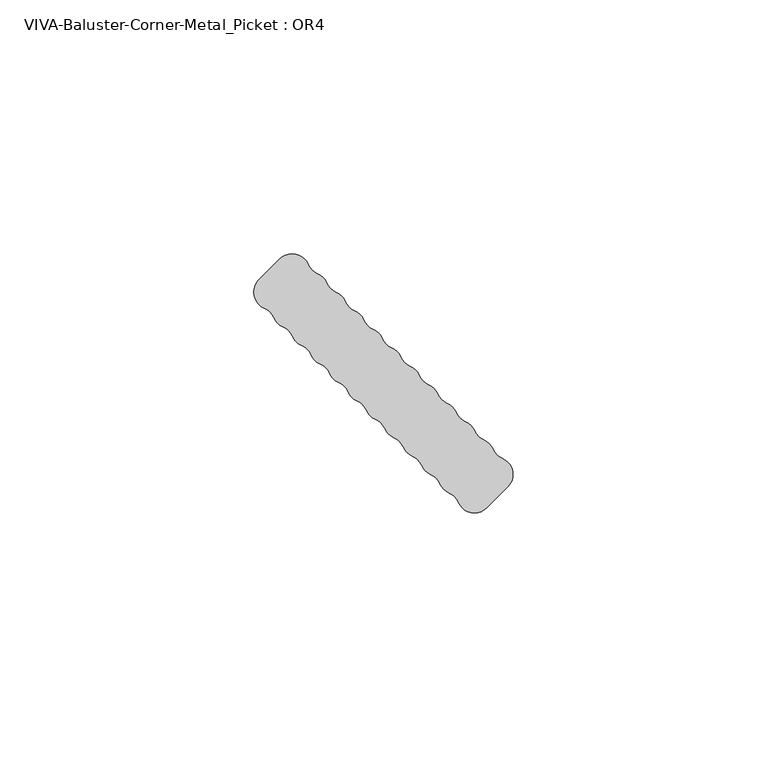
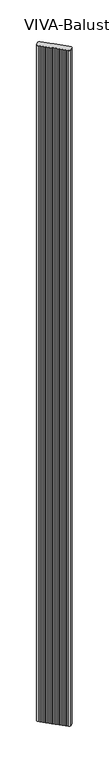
"""IFC4 building model written with IfcOpenShell, lengths in millimetres: railing geometry, VIVA-Baluster-Corner-Metal_Picket : OR4."""

from ifc_helpers import new_model, si_unit, frame, origin, place, context, project, spatial, polyline, circle_curve, source, transform, mapped, element, save
from ifc_brep_helpers import plane_surface, cylinder_surface, revolved_surface, advanced_brep


def viva_baluster_corner_metal_picket_or4_8cd8b7c1(model_context):
    return source(origin(), model_context, "Body", "AdvancedBrep", [
        advanced_brep(
        [(45.2828367, 351.4322697, 1219.2), (49.4018632, 355.5512962, 1219.2), (48.3150854, 361.1457503, 1219.2), (46.495083, 362.9657526, 1219.2), (44.6750807, 364.7857549, 1219.2), (42.8550784, 366.6057572, 1219.2), (41.0350761, 368.4257595, 1219.2), (39.2150738, 370.2457619, 1219.2), (37.3950715, 372.0657642, 1219.2), (35.5750691, 373.8857665, 1219.2), (33.7550668, 375.7057688, 1219.2), (31.9350645, 377.5257711, 1219.2), (30.1150622, 379.3457734, 1219.2), (28.2950599, 381.1657758, 1219.2), (26.4750576, 382.9857781, 1219.2), (24.6550552, 384.8057804, 1219.2), (22.8350529, 386.6257827, 1219.2), (21.0150506, 388.445785, 1219.2), (19.1950483, 390.2657873, 1219.2), (17.375046, 392.0857897, 1219.2), (15.5550437, 393.905792, 1219.2), (13.7350413, 395.7257943, 1219.2), (11.915039, 397.5457966, 1219.2), (10.0950367, 399.3657989, 1219.2), (4.5005826, 400.4525768, 1219.2), (0.3815561, 396.3335503, 1219.2), (1.468334, 390.7390962, 1219.2), (3.2883363, 388.9190939, 1219.2), (5.1083386, 387.0990916, 1219.2), (6.9283409, 385.2790892, 1219.2), (8.7483432, 383.4590869, 1219.2), (10.5683456, 381.6390846, 1219.2), (12.3883479, 379.8190823, 1219.2), (14.2083502, 377.99908, 1219.2), (16.0283525, 376.1790777, 1219.2), (17.8483548, 374.3590753, 1219.2), (19.6683571, 372.539073, 1219.2), (21.4883595, 370.7190707, 1219.2), (23.3083618, 368.8990684, 1219.2), (25.1283641, 367.0790661, 1219.2), (26.9483664, 365.2590638, 1219.2), (28.7683687, 363.4390614, 1219.2), (30.5883711, 361.6190591, 1219.2), (32.4083734, 359.7990568, 1219.2), (34.2283757, 357.9790545, 1219.2), (36.048378, 356.1590522, 1219.2), (37.8683803, 354.3390499, 1219.2), (39.6883826, 352.5190475, 1219.2), (45.2828367, 351.4322697, -245.8945017), (39.6883826, 352.5190475, -245.8945017), (37.8683803, 354.3390499, -245.8945017), (36.048378, 356.1590522, -245.8945017), (34.2283757, 357.9790545, -245.8945017), (32.4083734, 359.7990568, -245.8945017), (30.5883711, 361.6190591, -245.8945017), (28.7683687, 363.4390614, -245.8945017), (26.9483664, 365.2590638, -245.8945017), (25.1283641, 367.0790661, -245.8945017), (23.3083618, 368.8990684, -245.8945017), (21.4883595, 370.7190707, -245.8945017), (19.6683571, 372.539073, -245.8945017), (17.8483548, 374.3590753, -245.8945017), (16.0283525, 376.1790777, -245.8945017), (14.2083502, 377.99908, -245.8945017), (12.3883479, 379.8190823, -245.8945017), (10.5683456, 381.6390846, -245.8945017), (8.7483432, 383.4590869, -245.8945017), (6.9283409, 385.2790892, -245.8945017), (5.1083386, 387.0990916, -245.8945017), (3.2883363, 388.9190939, -245.8945017), (1.468334, 390.7390962, -245.8945017), (0.3815561, 396.3335503, -245.8945017), (4.5005826, 400.4525768, -245.8945017), (10.0950367, 399.3657989, -245.8945017), (11.915039, 397.5457966, -245.8945017), (13.7350413, 395.7257943, -245.8945017), (15.5550437, 393.905792, -245.8945017), (17.375046, 392.0857897, -245.8945017), (19.1950483, 390.2657873, -245.8945017), (21.0150506, 388.445785, -245.8945017), (22.8350529, 386.6257827, -245.8945017), (24.6550552, 384.8057804, -245.8945017), (26.4750576, 382.9857781, -245.8945017), (28.2950599, 381.1657758, -245.8945017), (30.1150622, 379.3457734, -245.8945017), (31.9350645, 377.5257711, -245.8945017), (33.7550668, 375.7057688, -245.8945017), (35.5750691, 373.8857665, -245.8945017), (37.3950715, 372.0657642, -245.8945017), (39.2150738, 370.2457619, -245.8945017), (41.0350761, 368.4257595, -245.8945017), (42.8550784, 366.6057572, -245.8945017), (44.6750807, 364.7857549, -245.8945017), (46.495083, 362.9657526, -245.8945017), (48.3150854, 361.1457503, -245.8945017), (49.4018632, 355.5512962, -245.8945017)],
        [
            (0, 1),
            (1, 2, circle_curve(frame((46.9712484, 357.981911, 1219.2), z_axis=(0.0, 0.0, 1.0), x_axis=(1.0, 0.0, 0.0)), 3.4374084)),
            (2, 3, circle_curve(frame((49.6589223, 364.3095895, 1219.2), z_axis=(0.0, 0.0, -1.0), x_axis=(1.0, 0.0, 0.0)), 3.4374084)),
            (3, 4, circle_curve(frame((43.3312438, 361.6219156, 1219.2), z_axis=(0.0, 0.0, 1.0), x_axis=(1.0, 0.0, 0.0)), 3.4374084)),
            (4, 5, circle_curve(frame((46.0189177, 367.9495942, 1219.2), z_axis=(0.0, 0.0, -1.0), x_axis=(1.0, 0.0, 0.0)), 3.4374084)),
            (5, 6, circle_curve(frame((39.6912391, 365.2619203, 1219.2), z_axis=(0.0, 0.0, 1.0), x_axis=(1.0, 0.0, 0.0)), 3.4374084)),
            (6, 7, circle_curve(frame((42.3789131, 371.5895988, 1219.2), z_axis=(0.0, 0.0, -1.0), x_axis=(1.0, 0.0, 0.0)), 3.4374084)),
            (7, 8, circle_curve(frame((36.0512345, 368.9019249, 1219.2), z_axis=(0.0, 0.0, 1.0), x_axis=(1.0, 0.0, 0.0)), 3.4374084)),
            (8, 9, circle_curve(frame((38.7389084, 375.2296034, 1219.2), z_axis=(0.0, 0.0, -1.0), x_axis=(1.0, 0.0, 0.0)), 3.4374084)),
            (9, 10, circle_curve(frame((32.4112299, 372.5419295, 1219.2), z_axis=(0.0, 0.0, 1.0), x_axis=(1.0, 0.0, 0.0)), 3.4374084)),
            (10, 11, circle_curve(frame((35.0989038, 378.8696081, 1219.2), z_axis=(0.0, 0.0, -1.0), x_axis=(1.0, 0.0, 0.0)), 3.4374084)),
            (11, 12, circle_curve(frame((28.7712252, 376.1819342, 1219.2), z_axis=(0.0, 0.0, 1.0), x_axis=(1.0, 0.0, 0.0)), 3.4374084)),
            (12, 13, circle_curve(frame((31.4588992, 382.5096127, 1219.2), z_axis=(0.0, 0.0, -1.0), x_axis=(1.0, 0.0, 0.0)), 3.4374084)),
            (13, 14, circle_curve(frame((25.1312206, 379.8219388, 1219.2), z_axis=(0.0, 0.0, 1.0), x_axis=(1.0, 0.0, 0.0)), 3.4374084)),
            (14, 15, circle_curve(frame((27.8188945, 386.1496174, 1219.2), z_axis=(0.0, 0.0, -1.0), x_axis=(1.0, 0.0, 0.0)), 3.4374084)),
            (15, 16, circle_curve(frame((21.491216, 383.4619434, 1219.2), z_axis=(0.0, 0.0, 1.0), x_axis=(1.0, 0.0, 0.0)), 3.4374084)),
            (16, 17, circle_curve(frame((24.1788899, 389.789622, 1219.2), z_axis=(0.0, 0.0, -1.0), x_axis=(1.0, 0.0, 0.0)), 3.4374084)),
            (17, 18, circle_curve(frame((17.8512113, 387.1019481, 1219.2), z_axis=(0.0, 0.0, 1.0), x_axis=(1.0, 0.0, 0.0)), 3.4374084)),
            (18, 19, circle_curve(frame((20.5388853, 393.4296266, 1219.2), z_axis=(0.0, 0.0, -1.0), x_axis=(1.0, 0.0, 0.0)), 3.4374084)),
            (19, 20, circle_curve(frame((14.2112067, 390.7419527, 1219.2), z_axis=(0.0, 0.0, 1.0), x_axis=(1.0, 0.0, 0.0)), 3.4374084)),
            (20, 21, circle_curve(frame((16.8988806, 397.0696313, 1219.2), z_axis=(0.0, 0.0, -1.0), x_axis=(1.0, 0.0, 0.0)), 3.4374084)),
            (21, 22, circle_curve(frame((10.5712021, 394.3819573, 1219.2), z_axis=(0.0, 0.0, 1.0), x_axis=(1.0, 0.0, 0.0)), 3.4374084)),
            (22, 23, circle_curve(frame((13.258876, 400.7096359, 1219.2), z_axis=(0.0, 0.0, -1.0), x_axis=(1.0, 0.0, 0.0)), 3.4374084)),
            (23, 24, circle_curve(frame((6.9311974, 398.021962, 1219.2), z_axis=(0.0, 0.0, 1.0), x_axis=(1.0, 0.0, 0.0)), 3.4374084)),
            (24, 25),
            (25, 26, circle_curve(frame((2.8121709, 393.9029355, 1219.2), z_axis=(0.0, 0.0, 1.0), x_axis=(1.0, 0.0, 0.0)), 3.4374084)),
            (26, 27, circle_curve(frame((0.124497, 387.5752569, 1219.2), z_axis=(0.0, 0.0, -1.0), x_axis=(1.0, 0.0, 0.0)), 3.4374084)),
            (27, 28, circle_curve(frame((6.4521756, 390.2629308, 1219.2), z_axis=(0.0, 0.0, 1.0), x_axis=(1.0, 0.0, 0.0)), 3.4374084)),
            (28, 29, circle_curve(frame((3.7645016, 383.9352523, 1219.2), z_axis=(0.0, 0.0, -1.0), x_axis=(1.0, 0.0, 0.0)), 3.4374084)),
            (29, 30, circle_curve(frame((10.0921802, 386.6229262, 1219.2), z_axis=(0.0, 0.0, 1.0), x_axis=(1.0, 0.0, 0.0)), 3.4374084)),
            (30, 31, circle_curve(frame((7.4045063, 380.2952477, 1219.2), z_axis=(0.0, 0.0, -1.0), x_axis=(1.0, 0.0, 0.0)), 3.4374084)),
            (31, 32, circle_curve(frame((13.7321848, 382.9829216, 1219.2), z_axis=(0.0, 0.0, 1.0), x_axis=(1.0, 0.0, 0.0)), 3.4374084)),
            (32, 33, circle_curve(frame((11.0445109, 376.655243, 1219.2), z_axis=(0.0, 0.0, -1.0), x_axis=(1.0, 0.0, 0.0)), 3.4374084)),
            (33, 34, circle_curve(frame((17.3721895, 379.3429169, 1219.2), z_axis=(0.0, 0.0, 1.0), x_axis=(1.0, 0.0, 0.0)), 3.4374084)),
            (34, 35, circle_curve(frame((14.6845156, 373.0152384, 1219.2), z_axis=(0.0, 0.0, -1.0), x_axis=(1.0, 0.0, 0.0)), 3.4374084)),
            (35, 36, circle_curve(frame((21.0121941, 375.7029123, 1219.2), z_axis=(0.0, 0.0, 1.0), x_axis=(1.0, 0.0, 0.0)), 3.4374084)),
            (36, 37, circle_curve(frame((18.3245202, 369.3752337, 1219.2), z_axis=(0.0, 0.0, -1.0), x_axis=(1.0, 0.0, 0.0)), 3.4374084)),
            (37, 38, circle_curve(frame((24.6521987, 372.0629077, 1219.2), z_axis=(0.0, 0.0, 1.0), x_axis=(1.0, 0.0, 0.0)), 3.4374084)),
            (38, 39, circle_curve(frame((21.9645248, 365.7352291, 1219.2), z_axis=(0.0, 0.0, -1.0), x_axis=(1.0, 0.0, 0.0)), 3.4374084)),
            (39, 40, circle_curve(frame((28.2922034, 368.422903, 1219.2), z_axis=(0.0, 0.0, 1.0), x_axis=(1.0, 0.0, 0.0)), 3.4374084)),
            (40, 41, circle_curve(frame((25.6045295, 362.0952245, 1219.2), z_axis=(0.0, 0.0, -1.0), x_axis=(1.0, 0.0, 0.0)), 3.4374084)),
            (41, 42, circle_curve(frame((31.932208, 364.7828984, 1219.2), z_axis=(0.0, 0.0, 1.0), x_axis=(1.0, 0.0, 0.0)), 3.4374084)),
            (42, 43, circle_curve(frame((29.2445341, 358.4552198, 1219.2), z_axis=(0.0, 0.0, -1.0), x_axis=(1.0, 0.0, 0.0)), 3.4374084)),
            (43, 44, circle_curve(frame((35.5722126, 361.1428938, 1219.2), z_axis=(0.0, 0.0, 1.0), x_axis=(1.0, 0.0, 0.0)), 3.4374084)),
            (44, 45, circle_curve(frame((32.8845387, 354.8152152, 1219.2), z_axis=(0.0, 0.0, -1.0), x_axis=(1.0, 0.0, 0.0)), 3.4374084)),
            (45, 46, circle_curve(frame((39.2122173, 357.5028891, 1219.2), z_axis=(0.0, 0.0, 1.0), x_axis=(1.0, 0.0, 0.0)), 3.4374084)),
            (46, 47, circle_curve(frame((36.5245434, 351.1752106, 1219.2), z_axis=(0.0, 0.0, -1.0), x_axis=(1.0, 0.0, 0.0)), 3.4374084)),
            (47, 0, circle_curve(frame((42.8522219, 353.8628845, 1219.2), z_axis=(0.0, 0.0, 1.0), x_axis=(1.0, 0.0, 0.0)), 3.4374084)),
            (48, 49, circle_curve(frame((42.8522219, 353.8628845, -245.8945017), z_axis=(0.0, 0.0, -1.0), x_axis=(1.0, 0.0, 0.0)), 3.4374084)),
            (49, 50, circle_curve(frame((36.5245434, 351.1752106, -245.8945017), z_axis=(0.0, 0.0, 1.0), x_axis=(1.0, 0.0, 0.0)), 3.4374084)),
            (50, 51, circle_curve(frame((39.2122173, 357.5028891, -245.8945017), z_axis=(0.0, 0.0, -1.0), x_axis=(1.0, 0.0, 0.0)), 3.4374084)),
            (51, 52, circle_curve(frame((32.8845387, 354.8152152, -245.8945017), z_axis=(0.0, 0.0, 1.0), x_axis=(1.0, 0.0, 0.0)), 3.4374084)),
            (52, 53, circle_curve(frame((35.5722126, 361.1428938, -245.8945017), z_axis=(0.0, 0.0, -1.0), x_axis=(1.0, 0.0, 0.0)), 3.4374084)),
            (53, 54, circle_curve(frame((29.2445341, 358.4552198, -245.8945017), z_axis=(0.0, 0.0, 1.0), x_axis=(1.0, 0.0, 0.0)), 3.4374084)),
            (54, 55, circle_curve(frame((31.932208, 364.7828984, -245.8945017), z_axis=(0.0, 0.0, -1.0), x_axis=(1.0, 0.0, 0.0)), 3.4374084)),
            (55, 56, circle_curve(frame((25.6045295, 362.0952245, -245.8945017), z_axis=(0.0, 0.0, 1.0), x_axis=(1.0, 0.0, 0.0)), 3.4374084)),
            (56, 57, circle_curve(frame((28.2922034, 368.422903, -245.8945017), z_axis=(0.0, 0.0, -1.0), x_axis=(1.0, 0.0, 0.0)), 3.4374084)),
            (57, 58, circle_curve(frame((21.9645248, 365.7352291, -245.8945017), z_axis=(0.0, 0.0, 1.0), x_axis=(1.0, 0.0, 0.0)), 3.4374084)),
            (58, 59, circle_curve(frame((24.6521987, 372.0629077, -245.8945017), z_axis=(0.0, 0.0, -1.0), x_axis=(1.0, 0.0, 0.0)), 3.4374084)),
            (59, 60, circle_curve(frame((18.3245202, 369.3752337, -245.8945017), z_axis=(0.0, 0.0, 1.0), x_axis=(1.0, 0.0, 0.0)), 3.4374084)),
            (60, 61, circle_curve(frame((21.0121941, 375.7029123, -245.8945017), z_axis=(0.0, 0.0, -1.0), x_axis=(1.0, 0.0, 0.0)), 3.4374084)),
            (61, 62, circle_curve(frame((14.6845156, 373.0152384, -245.8945017), z_axis=(0.0, 0.0, 1.0), x_axis=(1.0, 0.0, 0.0)), 3.4374084)),
            (62, 63, circle_curve(frame((17.3721895, 379.3429169, -245.8945017), z_axis=(0.0, 0.0, -1.0), x_axis=(1.0, 0.0, 0.0)), 3.4374084)),
            (63, 64, circle_curve(frame((11.0445109, 376.655243, -245.8945017), z_axis=(0.0, 0.0, 1.0), x_axis=(1.0, 0.0, 0.0)), 3.4374084)),
            (64, 65, circle_curve(frame((13.7321848, 382.9829216, -245.8945017), z_axis=(0.0, 0.0, -1.0), x_axis=(1.0, 0.0, 0.0)), 3.4374084)),
            (65, 66, circle_curve(frame((7.4045063, 380.2952477, -245.8945017), z_axis=(0.0, 0.0, 1.0), x_axis=(1.0, 0.0, 0.0)), 3.4374084)),
            (66, 67, circle_curve(frame((10.0921802, 386.6229262, -245.8945017), z_axis=(0.0, 0.0, -1.0), x_axis=(1.0, 0.0, 0.0)), 3.4374084)),
            (67, 68, circle_curve(frame((3.7645016, 383.9352523, -245.8945017), z_axis=(0.0, 0.0, 1.0), x_axis=(1.0, 0.0, 0.0)), 3.4374084)),
            (68, 69, circle_curve(frame((6.4521756, 390.2629308, -245.8945017), z_axis=(0.0, 0.0, -1.0), x_axis=(1.0, 0.0, 0.0)), 3.4374084)),
            (69, 70, circle_curve(frame((0.124497, 387.5752569, -245.8945017), z_axis=(0.0, 0.0, 1.0), x_axis=(1.0, 0.0, 0.0)), 3.4374084)),
            (70, 71, circle_curve(frame((2.8121709, 393.9029355, -245.8945017), z_axis=(0.0, 0.0, -1.0), x_axis=(1.0, 0.0, 0.0)), 3.4374084)),
            (71, 72),
            (72, 73, circle_curve(frame((6.9311974, 398.021962, -245.8945017), z_axis=(0.0, 0.0, -1.0), x_axis=(1.0, 0.0, 0.0)), 3.4374084)),
            (73, 74, circle_curve(frame((13.258876, 400.7096359, -245.8945017), z_axis=(0.0, 0.0, 1.0), x_axis=(1.0, 0.0, 0.0)), 3.4374084)),
            (74, 75, circle_curve(frame((10.5712021, 394.3819573, -245.8945017), z_axis=(0.0, 0.0, -1.0), x_axis=(1.0, 0.0, 0.0)), 3.4374084)),
            (75, 76, circle_curve(frame((16.8988806, 397.0696313, -245.8945017), z_axis=(0.0, 0.0, 1.0), x_axis=(1.0, 0.0, 0.0)), 3.4374084)),
            (76, 77, circle_curve(frame((14.2112067, 390.7419527, -245.8945017), z_axis=(0.0, 0.0, -1.0), x_axis=(1.0, 0.0, 0.0)), 3.4374084)),
            (77, 78, circle_curve(frame((20.5388853, 393.4296266, -245.8945017), z_axis=(0.0, 0.0, 1.0), x_axis=(1.0, 0.0, 0.0)), 3.4374084)),
            (78, 79, circle_curve(frame((17.8512113, 387.1019481, -245.8945017), z_axis=(0.0, 0.0, -1.0), x_axis=(1.0, 0.0, 0.0)), 3.4374084)),
            (79, 80, circle_curve(frame((24.1788899, 389.789622, -245.8945017), z_axis=(0.0, 0.0, 1.0), x_axis=(1.0, 0.0, 0.0)), 3.4374084)),
            (80, 81, circle_curve(frame((21.491216, 383.4619434, -245.8945017), z_axis=(0.0, 0.0, -1.0), x_axis=(1.0, 0.0, 0.0)), 3.4374084)),
            (81, 82, circle_curve(frame((27.8188945, 386.1496174, -245.8945017), z_axis=(0.0, 0.0, 1.0), x_axis=(1.0, 0.0, 0.0)), 3.4374084)),
            (82, 83, circle_curve(frame((25.1312206, 379.8219388, -245.8945017), z_axis=(0.0, 0.0, -1.0), x_axis=(1.0, 0.0, 0.0)), 3.4374084)),
            (83, 84, circle_curve(frame((31.4588992, 382.5096127, -245.8945017), z_axis=(0.0, 0.0, 1.0), x_axis=(1.0, 0.0, 0.0)), 3.4374084)),
            (84, 85, circle_curve(frame((28.7712252, 376.1819342, -245.8945017), z_axis=(0.0, 0.0, -1.0), x_axis=(1.0, 0.0, 0.0)), 3.4374084)),
            (85, 86, circle_curve(frame((35.0989038, 378.8696081, -245.8945017), z_axis=(0.0, 0.0, 1.0), x_axis=(1.0, 0.0, 0.0)), 3.4374084)),
            (86, 87, circle_curve(frame((32.4112299, 372.5419295, -245.8945017), z_axis=(0.0, 0.0, -1.0), x_axis=(1.0, 0.0, 0.0)), 3.4374084)),
            (87, 88, circle_curve(frame((38.7389084, 375.2296034, -245.8945017), z_axis=(0.0, 0.0, 1.0), x_axis=(1.0, 0.0, 0.0)), 3.4374084)),
            (88, 89, circle_curve(frame((36.0512345, 368.9019249, -245.8945017), z_axis=(0.0, 0.0, -1.0), x_axis=(1.0, 0.0, 0.0)), 3.4374084)),
            (89, 90, circle_curve(frame((42.3789131, 371.5895988, -245.8945017), z_axis=(0.0, 0.0, 1.0), x_axis=(1.0, 0.0, 0.0)), 3.4374084)),
            (90, 91, circle_curve(frame((39.6912391, 365.2619203, -245.8945017), z_axis=(0.0, 0.0, -1.0), x_axis=(1.0, 0.0, 0.0)), 3.4374084)),
            (91, 92, circle_curve(frame((46.0189177, 367.9495942, -245.8945017), z_axis=(0.0, 0.0, 1.0), x_axis=(1.0, 0.0, 0.0)), 3.4374084)),
            (92, 93, circle_curve(frame((43.3312438, 361.6219156, -245.8945017), z_axis=(0.0, 0.0, -1.0), x_axis=(1.0, 0.0, 0.0)), 3.4374084)),
            (93, 94, circle_curve(frame((49.6589223, 364.3095895, -245.8945017), z_axis=(0.0, 0.0, 1.0), x_axis=(1.0, 0.0, 0.0)), 3.4374084)),
            (94, 95, circle_curve(frame((46.9712484, 357.981911, -245.8945017), z_axis=(0.0, 0.0, -1.0), x_axis=(1.0, 0.0, 0.0)), 3.4374084)),
            (95, 48),
            (0, 48),
            (95, 1),
            (94, 2),
            (93, 3),
            (92, 4),
            (91, 5),
            (90, 6),
            (89, 7),
            (88, 8),
            (87, 9),
            (86, 10),
            (85, 11),
            (84, 12),
            (83, 13),
            (82, 14),
            (81, 15),
            (80, 16),
            (79, 17),
            (78, 18),
            (77, 19),
            (76, 20),
            (75, 21),
            (74, 22),
            (73, 23),
            (72, 24),
            (71, 25),
            (70, 26),
            (69, 27),
            (68, 28),
            (67, 29),
            (66, 30),
            (65, 31),
            (64, 32),
            (63, 33),
            (62, 34),
            (61, 35),
            (60, 36),
            (59, 37),
            (58, 38),
            (57, 39),
            (56, 40),
            (55, 41),
            (54, 42),
            (53, 43),
            (52, 44),
            (51, 45),
            (50, 46),
            (49, 47),
        ],
        [
            plane_surface(frame((49.4018632, 355.5512962, 1219.2), z_axis=(0.0, 0.0, 1.0), x_axis=(0.7071067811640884, 0.7071067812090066, 0.0))),
            plane_surface(frame((49.4018632, 355.5512962, -245.8945017), z_axis=(0.0, 0.0, -1.0), x_axis=(-0.7071067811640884, -0.7071067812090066, 0.0))),
            plane_surface(frame((45.2828367, 351.4322697, 1219.2), z_axis=(0.7071067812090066, -0.7071067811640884, 0.0), x_axis=(0.0, 0.0, -1.0))),
            cylinder_surface(frame((46.9712484, 357.981911, -245.8945017), z_axis=(0.0, 0.0, 1.0), x_axis=(1.0, 0.0, 0.0)), 3.4374084),
            revolved_surface(polyline([(53.0963307, 364.3095895, -245.8945017), (53.0963307, 364.3095895, 1219.2)]), (49.6589223, 364.3095895, -245.8945017), (0.0, 0.0, -1.0)),
            cylinder_surface(frame((43.3312438, 361.6219156, -245.8945017), z_axis=(0.0, 0.0, 1.0), x_axis=(1.0, 0.0, 0.0)), 3.4374084),
            revolved_surface(polyline([(49.456326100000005, 367.9495942, -245.8945017), (49.456326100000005, 367.9495942, 1219.2)]), (46.0189177, 367.9495942, -245.8945017), (0.0, 0.0, -1.0)),
            cylinder_surface(frame((39.6912391, 365.2619203, -245.8945017), z_axis=(0.0, 0.0, 1.0), x_axis=(1.0, 0.0, 0.0)), 3.4374084),
            revolved_surface(polyline([(45.8163215, 371.5895988, -245.8945017), (45.8163215, 371.5895988, 1219.2)]), (42.3789131, 371.5895988, -245.8945017), (0.0, 0.0, -1.0)),
            cylinder_surface(frame((36.0512345, 368.9019249, -245.8945017), z_axis=(0.0, 0.0, 1.0), x_axis=(1.0, 0.0, 0.0)), 3.4374084),
            revolved_surface(polyline([(42.1763168, 375.2296034, -245.8945017), (42.1763168, 375.2296034, 1219.2)]), (38.7389084, 375.2296034, -245.8945017), (0.0, 0.0, -1.0)),
            cylinder_surface(frame((32.4112299, 372.5419295, -245.8945017), z_axis=(0.0, 0.0, 1.0), x_axis=(1.0, 0.0, 0.0)), 3.4374084),
            revolved_surface(polyline([(38.536312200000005, 378.8696081, -245.8945017), (38.536312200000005, 378.8696081, 1219.2)]), (35.0989038, 378.8696081, -245.8945017), (0.0, 0.0, -1.0)),
            cylinder_surface(frame((28.7712252, 376.1819342, -245.8945017), z_axis=(0.0, 0.0, 1.0), x_axis=(1.0, 0.0, 0.0)), 3.4374084),
            revolved_surface(polyline([(34.8963076, 382.5096127, -245.8945017), (34.8963076, 382.5096127, 1219.2)]), (31.4588992, 382.5096127, -245.8945017), (0.0, 0.0, -1.0)),
            cylinder_surface(frame((25.1312206, 379.8219388, -245.8945017), z_axis=(0.0, 0.0, 1.0), x_axis=(1.0, 0.0, 0.0)), 3.4374084),
            revolved_surface(polyline([(31.256302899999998, 386.1496174, -245.8945017), (31.256302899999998, 386.1496174, 1219.2)]), (27.8188945, 386.1496174, -245.8945017), (0.0, 0.0, -1.0)),
            cylinder_surface(frame((21.491216, 383.4619434, -245.8945017), z_axis=(0.0, 0.0, 1.0), x_axis=(1.0, 0.0, 0.0)), 3.4374084),
            revolved_surface(polyline([(27.6162983, 389.789622, -245.8945017), (27.6162983, 389.789622, 1219.2)]), (24.1788899, 389.789622, -245.8945017), (0.0, 0.0, -1.0)),
            cylinder_surface(frame((17.8512113, 387.1019481, -245.8945017), z_axis=(0.0, 0.0, 1.0), x_axis=(1.0, 0.0, 0.0)), 3.4374084),
            revolved_surface(polyline([(23.9762937, 393.4296266, -245.8945017), (23.9762937, 393.4296266, 1219.2)]), (20.5388853, 393.4296266, -245.8945017), (0.0, 0.0, -1.0)),
            cylinder_surface(frame((14.2112067, 390.7419527, -245.8945017), z_axis=(0.0, 0.0, 1.0), x_axis=(1.0, 0.0, 0.0)), 3.4374084),
            revolved_surface(polyline([(20.336288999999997, 397.0696313, -245.8945017), (20.336288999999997, 397.0696313, 1219.2)]), (16.8988806, 397.0696313, -245.8945017), (0.0, 0.0, -1.0)),
            cylinder_surface(frame((10.5712021, 394.3819573, -245.8945017), z_axis=(0.0, 0.0, 1.0), x_axis=(1.0, 0.0, 0.0)), 3.4374084),
            revolved_surface(polyline([(16.6962844, 400.7096359, -245.8945017), (16.6962844, 400.7096359, 1219.2)]), (13.258876, 400.7096359, -245.8945017), (0.0, 0.0, -1.0)),
            cylinder_surface(frame((6.9311974, 398.021962, -245.8945017), z_axis=(0.0, 0.0, 1.0), x_axis=(1.0, 0.0, 0.0)), 3.4374084),
            plane_surface(frame((4.5005826, 400.4525768, 1219.2), z_axis=(-0.707106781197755, 0.70710678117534, 0.0), x_axis=(0.0, 0.0, -1.0))),
            cylinder_surface(frame((2.8121709, 393.9029355, -245.8945017), z_axis=(0.0, 0.0, 1.0), x_axis=(1.0, 0.0, 0.0)), 3.4374084),
            revolved_surface(polyline([(3.5619053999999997, 387.5752569, -245.8945017), (3.5619053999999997, 387.5752569, 1219.2)]), (0.124497, 387.5752569, -245.8945017), (0.0, 0.0, -1.0)),
            cylinder_surface(frame((6.4521756, 390.2629308, -245.8945017), z_axis=(0.0, 0.0, 1.0), x_axis=(1.0, 0.0, 0.0)), 3.4374084),
            revolved_surface(polyline([(7.20191, 383.9352523, -245.8945017), (7.20191, 383.9352523, 1219.2)]), (3.7645016, 383.9352523, -245.8945017), (0.0, 0.0, -1.0)),
            cylinder_surface(frame((10.0921802, 386.6229262, -245.8945017), z_axis=(0.0, 0.0, 1.0), x_axis=(1.0, 0.0, 0.0)), 3.4374084),
            revolved_surface(polyline([(10.8419147, 380.2952477, -245.8945017), (10.8419147, 380.2952477, 1219.2)]), (7.4045063, 380.2952477, -245.8945017), (0.0, 0.0, -1.0)),
            cylinder_surface(frame((13.7321848, 382.9829216, -245.8945017), z_axis=(0.0, 0.0, 1.0), x_axis=(1.0, 0.0, 0.0)), 3.4374084),
            revolved_surface(polyline([(14.481919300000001, 376.655243, -245.8945017), (14.481919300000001, 376.655243, 1219.2)]), (11.0445109, 376.655243, -245.8945017), (0.0, 0.0, -1.0)),
            cylinder_surface(frame((17.3721895, 379.3429169, -245.8945017), z_axis=(0.0, 0.0, 1.0), x_axis=(1.0, 0.0, 0.0)), 3.4374084),
            revolved_surface(polyline([(18.121924, 373.0152384, -245.8945017), (18.121924, 373.0152384, 1219.2)]), (14.6845156, 373.0152384, -245.8945017), (0.0, 0.0, -1.0)),
            cylinder_surface(frame((21.0121941, 375.7029123, -245.8945017), z_axis=(0.0, 0.0, 1.0), x_axis=(1.0, 0.0, 0.0)), 3.4374084),
            revolved_surface(polyline([(21.761928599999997, 369.3752337, -245.8945017), (21.761928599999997, 369.3752337, 1219.2)]), (18.3245202, 369.3752337, -245.8945017), (0.0, 0.0, -1.0)),
            cylinder_surface(frame((24.6521987, 372.0629077, -245.8945017), z_axis=(0.0, 0.0, 1.0), x_axis=(1.0, 0.0, 0.0)), 3.4374084),
            revolved_surface(polyline([(25.4019332, 365.7352291, -245.8945017), (25.4019332, 365.7352291, 1219.2)]), (21.9645248, 365.7352291, -245.8945017), (0.0, 0.0, -1.0)),
            cylinder_surface(frame((28.2922034, 368.422903, -245.8945017), z_axis=(0.0, 0.0, 1.0), x_axis=(1.0, 0.0, 0.0)), 3.4374084),
            revolved_surface(polyline([(29.0419379, 362.0952245, -245.8945017), (29.0419379, 362.0952245, 1219.2)]), (25.6045295, 362.0952245, -245.8945017), (0.0, 0.0, -1.0)),
            cylinder_surface(frame((31.932208, 364.7828984, -245.8945017), z_axis=(0.0, 0.0, 1.0), x_axis=(1.0, 0.0, 0.0)), 3.4374084),
            revolved_surface(polyline([(32.6819425, 358.4552198, -245.8945017), (32.6819425, 358.4552198, 1219.2)]), (29.2445341, 358.4552198, -245.8945017), (0.0, 0.0, -1.0)),
            cylinder_surface(frame((35.5722126, 361.1428938, -245.8945017), z_axis=(0.0, 0.0, 1.0), x_axis=(1.0, 0.0, 0.0)), 3.4374084),
            revolved_surface(polyline([(36.3219471, 354.8152152, -245.8945017), (36.3219471, 354.8152152, 1219.2)]), (32.8845387, 354.8152152, -245.8945017), (0.0, 0.0, -1.0)),
            cylinder_surface(frame((39.2122173, 357.5028891, -245.8945017), z_axis=(0.0, 0.0, 1.0), x_axis=(1.0, 0.0, 0.0)), 3.4374084),
            revolved_surface(polyline([(39.9619518, 351.1752106, -245.8945017), (39.9619518, 351.1752106, 1219.2)]), (36.5245434, 351.1752106, -245.8945017), (0.0, 0.0, -1.0)),
            cylinder_surface(frame((42.8522219, 353.8628845, -245.8945017), z_axis=(0.0, 0.0, 1.0), x_axis=(1.0, 0.0, 0.0)), 3.4374084),
        ],
        [
            (0, [[1, 2, 3, 4, 5, 6, 7, 8, 9, 10, 11, 12, 13, 14, 15, 16, 17, 18, 19, 20, 21, 22, 23, 24, 25, 26, 27, 28, 29, 30, 31, 32, 33, 34, 35, 36, 37, 38, 39, 40, 41, 42, 43, 44, 45, 46, 47, 48]]),
            (1, [[49, 50, 51, 52, 53, 54, 55, 56, 57, 58, 59, 60, 61, 62, 63, 64, 65, 66, 67, 68, 69, 70, 71, 72, 73, 74, 75, 76, 77, 78, 79, 80, 81, 82, 83, 84, 85, 86, 87, 88, 89, 90, 91, 92, 93, 94, 95, 96]]),
            (2, [[-1, 97, -96, 98]]),
            (3, [[-2, -98, -95, 99]]),
            (4, [[-3, -99, -94, 100]]),
            (5, [[-4, -100, -93, 101]]),
            (6, [[-5, -101, -92, 102]]),
            (7, [[-6, -102, -91, 103]]),
            (8, [[-7, -103, -90, 104]]),
            (9, [[-8, -104, -89, 105]]),
            (10, [[-9, -105, -88, 106]]),
            (11, [[-10, -106, -87, 107]]),
            (12, [[-11, -107, -86, 108]]),
            (13, [[-12, -108, -85, 109]]),
            (14, [[-13, -109, -84, 110]]),
            (15, [[-14, -110, -83, 111]]),
            (16, [[-15, -111, -82, 112]]),
            (17, [[-16, -112, -81, 113]]),
            (18, [[-17, -113, -80, 114]]),
            (19, [[-18, -114, -79, 115]]),
            (20, [[-19, -115, -78, 116]]),
            (21, [[-20, -116, -77, 117]]),
            (22, [[-21, -117, -76, 118]]),
            (23, [[-22, -118, -75, 119]]),
            (24, [[-23, -119, -74, 120]]),
            (25, [[-24, -120, -73, 121]]),
            (26, [[-25, -121, -72, 122]]),
            (27, [[-26, -122, -71, 123]]),
            (28, [[-27, -123, -70, 124]]),
            (29, [[-28, -124, -69, 125]]),
            (30, [[-29, -125, -68, 126]]),
            (31, [[-30, -126, -67, 127]]),
            (32, [[-31, -127, -66, 128]]),
            (33, [[-32, -128, -65, 129]]),
            (34, [[-33, -129, -64, 130]]),
            (35, [[-34, -130, -63, 131]]),
            (36, [[-35, -131, -62, 132]]),
            (37, [[-36, -132, -61, 133]]),
            (38, [[-37, -133, -60, 134]]),
            (39, [[-38, -134, -59, 135]]),
            (40, [[-39, -135, -58, 136]]),
            (41, [[-40, -136, -57, 137]]),
            (42, [[-41, -137, -56, 138]]),
            (43, [[-42, -138, -55, 139]]),
            (44, [[-43, -139, -54, 140]]),
            (45, [[-44, -140, -53, 141]]),
            (46, [[-45, -141, -52, 142]]),
            (47, [[-46, -142, -51, 143]]),
            (48, [[-47, -143, -50, 144]]),
            (49, [[-48, -144, -49, -97]]),
        ],
    ),
    ])


if __name__ == "__main__":
    model = new_model("IFC4")
    model_context = context("Model", 3, world=origin())
    ifc_project = project(units=[si_unit("LENGTHUNIT", "METRE", prefix="MILLI")], contexts=[model_context])
    site = spatial("IfcSite", under=ifc_project)
    building = spatial("IfcBuilding", under=site)
    placement = place(None, origin())
    viva_baluster_corner_metal_picket_or4_shape = viva_baluster_corner_metal_picket_or4_8cd8b7c1(model_context)
    element("IfcRailing", 1, ObjectType="VIVA-Baluster-Corner-Metal_Picket : OR4", at=placement, inside=building, context=model_context, shape_type="MappedRepresentation", body=[
        mapped(viva_baluster_corner_metal_picket_or4_shape, transform((0.0, 0.0, 0.0), x_axis=(1.0, 0.0, 0.0), y_axis=(0.0, 1.0, 0.0), z_axis=(0.0, 0.0, 1.0))),
    ])
    save(model, "model.ifc")
